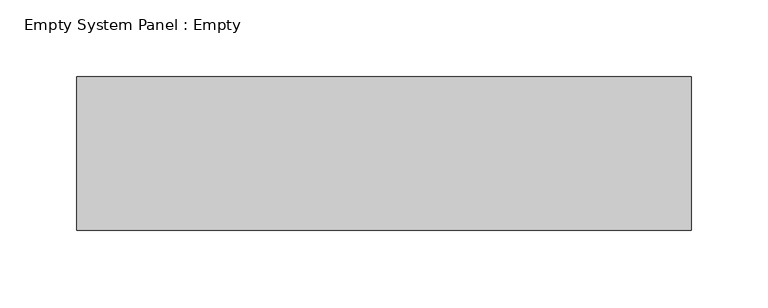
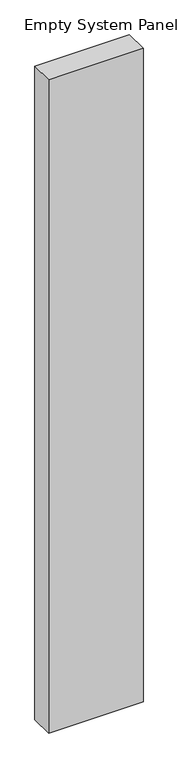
"""IFC4 building model written with IfcOpenShell, lengths in millimetres: plate geometry, Empty System Panel : Empty."""

from ifc_helpers import new_model, si_unit, origin, origin_with_axes, place, context, project, spatial, polyline, outline, extrude, source, transform, mapped, element, save


def empty_system_panel_empty_361e841d(model_context):
    return source(origin(), model_context, "Body", "SweptSolid", [
        extrude(outline(polyline([(200.0, -50.0), (-200.0, -50.0), (-200.0, 50.0), (200.0, 50.0), (200.0, -50.0)])), origin_with_axes(), (0.0, 0.0, 1.0), 2925.0),
    ])


if __name__ == "__main__":
    model = new_model("IFC4")
    model_context = context("Model", 3, world=origin())
    ifc_project = project(units=[si_unit("LENGTHUNIT", "METRE", prefix="MILLI")], contexts=[model_context])
    site = spatial("IfcSite", under=ifc_project)
    building = spatial("IfcBuilding", under=site)
    placement = place(None, origin())
    empty_system_panel_empty_shape = empty_system_panel_empty_361e841d(model_context)
    element("IfcPlate", 1, ObjectType="Empty System Panel : Empty", at=placement, inside=building, context=model_context, shape_type="MappedRepresentation", body=[
        mapped(empty_system_panel_empty_shape, transform((0.0, 0.0, 0.0), x_axis=(1.0, 0.0, 0.0), y_axis=(0.0, 1.0, 0.0), z_axis=(0.0, 0.0, 1.0))),
    ])
    save(model, "model.ifc")
